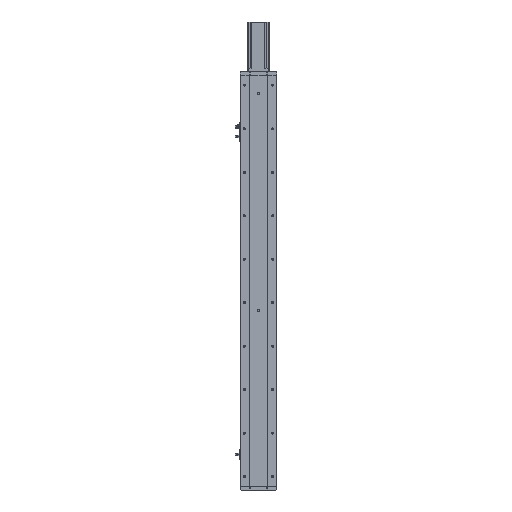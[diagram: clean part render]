
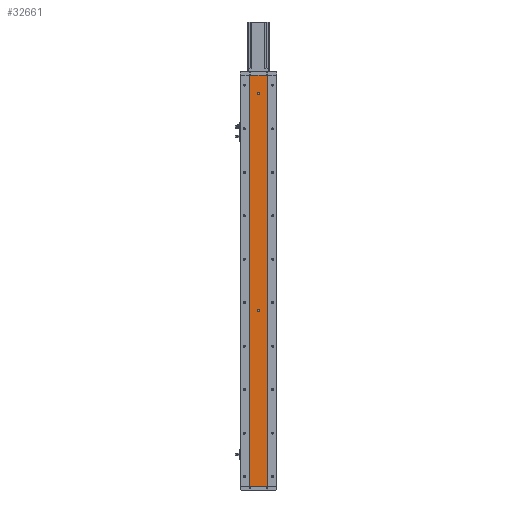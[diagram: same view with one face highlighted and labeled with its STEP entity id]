
A CAD part, left-side view. The second image highlights one B-rep face of the part: STEP entity #32661.
In plain terms, the highlighted planar face has unit normal (-1, 0, 0).
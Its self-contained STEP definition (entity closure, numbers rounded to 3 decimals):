
#25 = FACE_OUTER_BOUND ( 'NONE', #3906, .T. ) ;
#724 = EDGE_CURVE ( 'NONE', #29839, #19635, #25714, .T. ) ;
#1540 = VECTOR ( 'NONE', #35501, 1000. ) ;
#1967 = ORIENTED_EDGE ( 'NONE', *, *, #28827, .F. ) ;
#1993 = CARTESIAN_POINT ( 'NONE',  ( -18.926, 24.785, 0. ) ) ;
#2260 = VERTEX_POINT ( 'NONE', #36116 ) ;
#3906 = EDGE_LOOP ( 'NONE', ( #35694, #15245, #36649, #34234 ) ) ;
#3909 = ORIENTED_EDGE ( 'NONE', *, *, #39156, .F. ) ;
#4770 = FACE_BOUND ( 'NONE', #31758, .T. ) ;
#5157 = CARTESIAN_POINT ( 'NONE',  ( -18.926, 24.785, 0. ) ) ;
#6242 = DIRECTION ( 'NONE',  ( -1., 0., 0. ) ) ;
#6851 = DIRECTION ( 'NONE',  ( -1., 0., 0. ) ) ;
#8117 = CARTESIAN_POINT ( 'NONE',  ( -18.926, 0., 1088. ) ) ;
#8436 = CARTESIAN_POINT ( 'NONE',  ( -18.926, -24.785, 1135. ) ) ;
#9357 = CARTESIAN_POINT ( 'NONE',  ( -18.926, 0., 1082. ) ) ;
#9423 = EDGE_CURVE ( 'NONE', #16471, #10763, #9490, .T. ) ;
#9490 = LINE ( 'NONE', #1993, #33300 ) ;
#10022 = EDGE_CURVE ( 'NONE', #36667, #2260, #40137, .T. ) ;
#10763 = VERTEX_POINT ( 'NONE', #42215 ) ;
#11858 = CARTESIAN_POINT ( 'NONE',  ( -18.926, 0., 1085. ) ) ;
#13248 = CARTESIAN_POINT ( 'NONE',  ( -18.926, 0., 482. ) ) ;
#13529 = CARTESIAN_POINT ( 'NONE',  ( -18.926, 24.785, 1135. ) ) ;
#14544 = AXIS2_PLACEMENT_3D ( 'NONE', #26574, #6242, #29967 ) ;
#14879 = CIRCLE ( 'NONE', #39668, 3. ) ;
#15245 = ORIENTED_EDGE ( 'NONE', *, *, #29747, .F. ) ;
#15265 = DIRECTION ( 'NONE',  ( 0., 0., 1. ) ) ;
#16414 = LINE ( 'NONE', #38618, #41233 ) ;
#16471 = VERTEX_POINT ( 'NONE', #5157 ) ;
#16722 = VECTOR ( 'NONE', #37509, 1000. ) ;
#16945 = DIRECTION ( 'NONE',  ( 0., 0., -1. ) ) ;
#17394 = DIRECTION ( 'NONE',  ( -1., 0., 0. ) ) ;
#18752 = VERTEX_POINT ( 'NONE', #8117 ) ;
#19635 = VERTEX_POINT ( 'NONE', #40748 ) ;
#20206 = PLANE ( 'NONE',  #30609 ) ;
#22497 = EDGE_CURVE ( 'NONE', #29839, #16471, #16414, .T. ) ;
#22788 = LINE ( 'NONE', #8436, #1540 ) ;
#25231 = DIRECTION ( 'NONE',  ( 0., 0., -1. ) ) ;
#25691 = EDGE_CURVE ( 'NONE', #2260, #36667, #14879, .T. ) ;
#25714 = LINE ( 'NONE', #40916, #16722 ) ;
#25772 = DIRECTION ( 'NONE',  ( 0., -1., 0. ) ) ;
#26219 = VERTEX_POINT ( 'NONE', #9357 ) ;
#26574 = CARTESIAN_POINT ( 'NONE',  ( -18.926, 0., 1085. ) ) ;
#27210 = CARTESIAN_POINT ( 'NONE',  ( -18.926, 0., 485. ) ) ;
#28199 = AXIS2_PLACEMENT_3D ( 'NONE', #11858, #35506, #15265 ) ;
#28827 = EDGE_CURVE ( 'NONE', #18752, #26219, #43591, .T. ) ;
#29747 = EDGE_CURVE ( 'NONE', #19635, #10763, #22788, .T. ) ;
#29839 = VERTEX_POINT ( 'NONE', #32690 ) ;
#29967 = DIRECTION ( 'NONE',  ( 0., 0., 1. ) ) ;
#30547 = CIRCLE ( 'NONE', #28199, 3. ) ;
#30567 = DIRECTION ( 'NONE',  ( 0., 0., 1. ) ) ;
#30609 = AXIS2_PLACEMENT_3D ( 'NONE', #13529, #37170, #16945 ) ;
#31758 = EDGE_LOOP ( 'NONE', ( #1967, #3909 ) ) ;
#32661 = ADVANCED_FACE ( 'NONE', ( #39726, #4770, #25 ), #20206, .F. ) ;
#32667 = AXIS2_PLACEMENT_3D ( 'NONE', #37625, #17394, #41027 ) ;
#32690 = CARTESIAN_POINT ( 'NONE',  ( -18.926, 24.785, 1135. ) ) ;
#33300 = VECTOR ( 'NONE', #25772, 1000. ) ;
#34234 = ORIENTED_EDGE ( 'NONE', *, *, #22497, .T. ) ;
#35501 = DIRECTION ( 'NONE',  ( 0., 0., -1. ) ) ;
#35506 = DIRECTION ( 'NONE',  ( -1., 0., 0. ) ) ;
#35694 = ORIENTED_EDGE ( 'NONE', *, *, #9423, .T. ) ;
#36116 = CARTESIAN_POINT ( 'NONE',  ( -18.926, 0., 488. ) ) ;
#36649 = ORIENTED_EDGE ( 'NONE', *, *, #724, .F. ) ;
#36667 = VERTEX_POINT ( 'NONE', #13248 ) ;
#37170 = DIRECTION ( 'NONE',  ( 1., 0., 0. ) ) ;
#37509 = DIRECTION ( 'NONE',  ( 0., -1., 0. ) ) ;
#37625 = CARTESIAN_POINT ( 'NONE',  ( -18.926, 0., 485. ) ) ;
#38618 = CARTESIAN_POINT ( 'NONE',  ( -18.926, 24.785, 1135. ) ) ;
#38781 = ORIENTED_EDGE ( 'NONE', *, *, #10022, .F. ) ;
#39156 = EDGE_CURVE ( 'NONE', #26219, #18752, #30547, .T. ) ;
#39565 = EDGE_LOOP ( 'NONE', ( #43548, #38781 ) ) ;
#39668 = AXIS2_PLACEMENT_3D ( 'NONE', #27210, #6851, #30567 ) ;
#39726 = FACE_BOUND ( 'NONE', #39565, .T. ) ;
#40137 = CIRCLE ( 'NONE', #32667, 3. ) ;
#40748 = CARTESIAN_POINT ( 'NONE',  ( -18.926, -24.785, 1135. ) ) ;
#40916 = CARTESIAN_POINT ( 'NONE',  ( -18.926, 24.785, 1135. ) ) ;
#41027 = DIRECTION ( 'NONE',  ( 0., 0., 1. ) ) ;
#41233 = VECTOR ( 'NONE', #25231, 1000. ) ;
#42215 = CARTESIAN_POINT ( 'NONE',  ( -18.926, -24.785, 0. ) ) ;
#43548 = ORIENTED_EDGE ( 'NONE', *, *, #25691, .F. ) ;
#43591 = CIRCLE ( 'NONE', #14544, 3. ) ;
